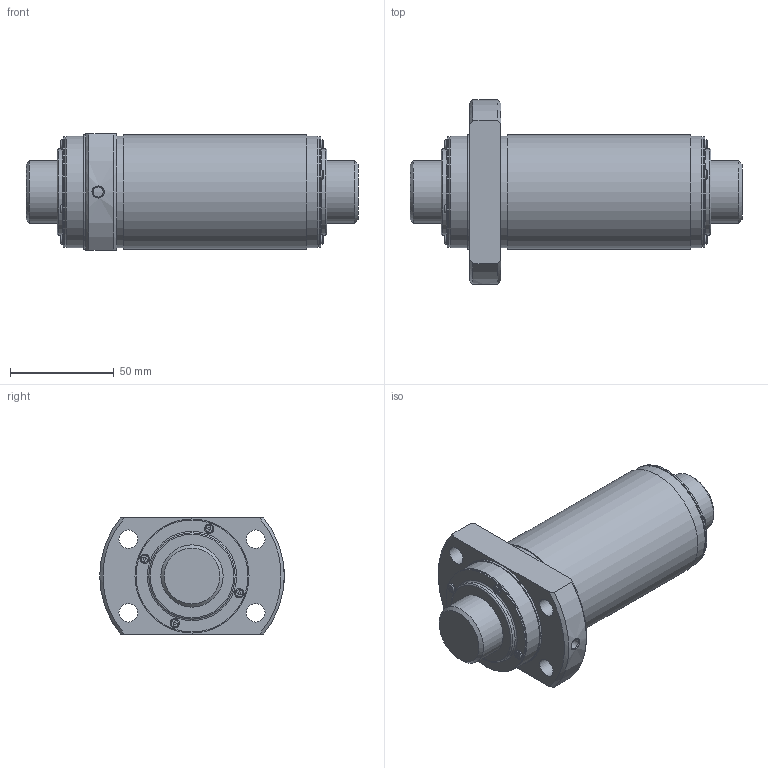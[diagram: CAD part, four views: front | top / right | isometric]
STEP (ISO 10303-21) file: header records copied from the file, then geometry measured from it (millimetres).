
FILE_DESCRIPTION(/* description */ ('STEP AP203'),/* implementation_level */ '2;1');
FILE_NAME(/* name */ 'WTF3060-3ZZ+160.1LC7T_000_rev',/* time_stamp */ '2025-06-11T06:41:04+02:00',/* author */ ('License CC BY-ND 4.0'),/* organization */ ('CADENAS'),/* preprocessor_version */ 'ST-DEVELOPER v19.3',/* originating_system */ 'PARTsolutions',/* authorisation */ ' ');
FILE_SCHEMA (('CONFIG_CONTROL_DESIGN'));
Length unit declared in the file: millimetre
Products named in the file (3): WTF3060-3ZZ+160.1LC7T_000_rev; WTF3060-30ZZ0 Shaft; WTF3060-3ZZ Nut
Assembly tree (2 placements, depth 2):
  WTF3060-3ZZ+160.1LC7T_000_rev
    WTF3060-30ZZ0 Shaft
    WTF3060-3ZZ Nut
Bounding box: 160.1 x 89 x 56 mm (x, y, z)
Volume: 351487.6 mm3; surface area: 61677.6 mm2
Topology: 2 solids, 2 shells, 206 faces, 515 edges, 338 vertices
Faces by surface type: plane 127, cylinder 58, torus 12, cone 9
Full cylindrical faces by diameter (mm): 4.54 x8, 4.917 x1, 9 x4, 30 x2, 41.6 x2, 54 x5, 55 x2
Entity records: 6035 total; most frequent: CARTESIAN_POINT 1063, DIRECTION 1016, ORIENTED_EDGE 946, EDGE_CURVE 473, AXIS2_PLACEMENT_3D 344, VERTEX_POINT 337, LINE 328, VECTOR 328
